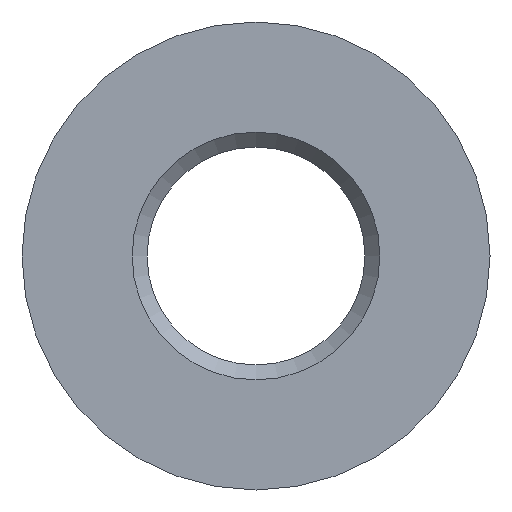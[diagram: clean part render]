
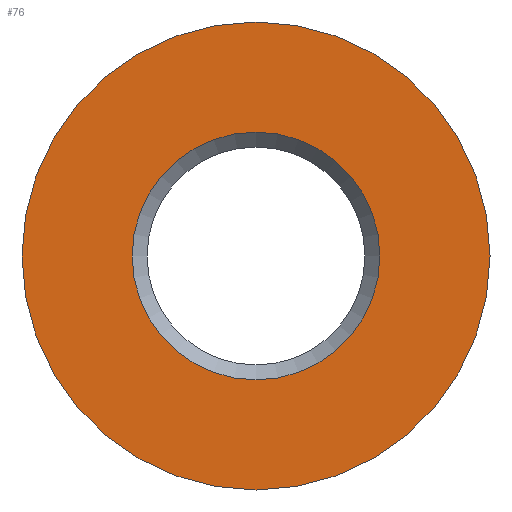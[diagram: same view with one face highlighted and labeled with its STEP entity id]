
A CAD part, front view. The second image highlights one B-rep face of the part: STEP entity #76.
In plain terms, the highlighted planar face has unit normal (0, -1, 0).
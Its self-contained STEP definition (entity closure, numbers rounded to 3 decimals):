
#76 = ADVANCED_FACE( '', ( #97, #98 ), #99, .F. );
#97 = FACE_BOUND( '', #142, .T. );
#98 = FACE_OUTER_BOUND( '', #143, .T. );
#99 = PLANE( '', #144 );
#142 = EDGE_LOOP( '', ( #193 ) );
#143 = EDGE_LOOP( '', ( #194 ) );
#144 = AXIS2_PLACEMENT_3D( '', #195, #196, #197 );
#193 = ORIENTED_EDGE( '', *, *, #319, .F. );
#194 = ORIENTED_EDGE( '', *, *, #320, .T. );
#195 = CARTESIAN_POINT( '', ( 34., 0., 0. ) );
#196 = DIRECTION( '', ( 0., 1., 0. ) );
#197 = DIRECTION( '', ( 0., 0., 1. ) );
#319 = EDGE_CURVE( '', #360, #360, #361, .T. );
#320 = EDGE_CURVE( '', #362, #362, #363, .T. );
#360 = VERTEX_POINT( '', #441 );
#361 = CIRCLE( '', #442, 18. );
#362 = VERTEX_POINT( '', #443 );
#363 = CIRCLE( '', #444, 34. );
#441 = CARTESIAN_POINT( '', ( 0., 0., -18. ) );
#442 = AXIS2_PLACEMENT_3D( '', #593, #594, #595 );
#443 = CARTESIAN_POINT( '', ( 0., 0., -34. ) );
#444 = AXIS2_PLACEMENT_3D( '', #596, #597, #598 );
#593 = CARTESIAN_POINT( '', ( 0., 0., 0. ) );
#594 = DIRECTION( '', ( 0., -1., 0. ) );
#595 = DIRECTION( '', ( 0., 0., -1. ) );
#596 = CARTESIAN_POINT( '', ( 0., 0., 0. ) );
#597 = DIRECTION( '', ( 0., -1., 0. ) );
#598 = DIRECTION( '', ( 0., 0., -1. ) );
